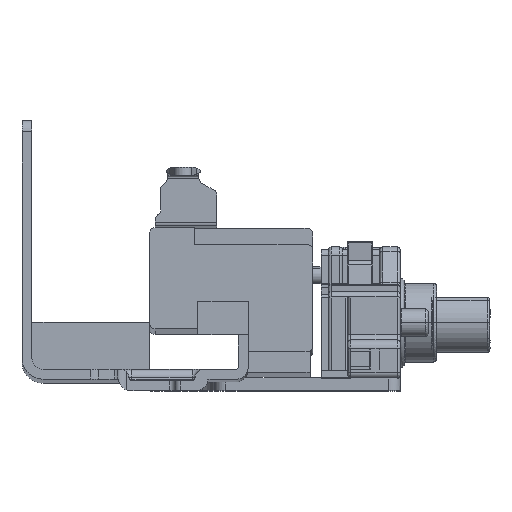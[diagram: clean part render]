
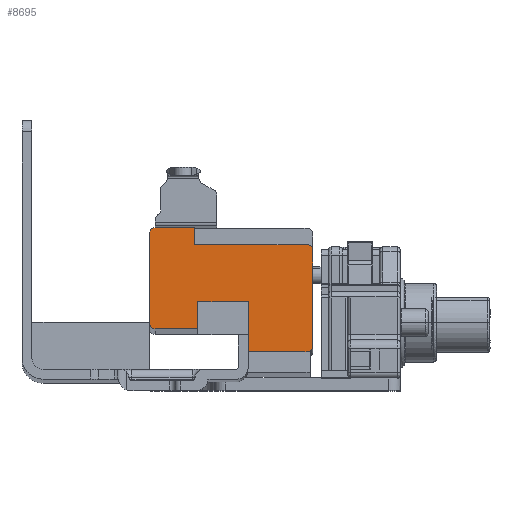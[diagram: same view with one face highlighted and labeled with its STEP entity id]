
A CAD part, top view. The second image highlights one B-rep face of the part: STEP entity #8695.
In plain terms, the highlighted planar face has unit normal (0, 0, 1).
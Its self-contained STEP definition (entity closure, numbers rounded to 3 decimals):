
#59 = VERTEX_POINT ( 'NONE', #14109 ) ;
#310 = DIRECTION ( 'NONE',  ( 0., -1., 0. ) ) ;
#373 = CARTESIAN_POINT ( 'NONE',  ( 3.55, 3., -15.97 ) ) ;
#377 = ORIENTED_EDGE ( 'NONE', *, *, #9993, .F. ) ;
#462 = EDGE_CURVE ( 'NONE', #644, #2111, #7792, .T. ) ;
#644 = VERTEX_POINT ( 'NONE', #7593 ) ;
#816 = VERTEX_POINT ( 'NONE', #10331 ) ;
#1180 = LINE ( 'NONE', #13595, #8117 ) ;
#1352 = EDGE_CURVE ( 'NONE', #14929, #816, #3870, .T. ) ;
#1508 = LINE ( 'NONE', #7400, #8442 ) ;
#1572 = VERTEX_POINT ( 'NONE', #13761 ) ;
#1579 = VERTEX_POINT ( 'NONE', #12158 ) ;
#1606 = EDGE_LOOP ( 'NONE', ( #7918, #6386, #377, #17459, #17821, #2109, #14053, #16435, #14775, #16773, #14745, #2834, #10623, #5740 ) ) ;
#1732 = DIRECTION ( 'NONE',  ( 1., 0., 0. ) ) ;
#2069 = EDGE_CURVE ( 'NONE', #816, #1579, #11627, .T. ) ;
#2109 = ORIENTED_EDGE ( 'NONE', *, *, #15446, .T. ) ;
#2111 = VERTEX_POINT ( 'NONE', #2582 ) ;
#2221 = LINE ( 'NONE', #3825, #16471 ) ;
#2330 = DIRECTION ( 'NONE',  ( 1., 0., 0. ) ) ;
#2563 = DIRECTION ( 'NONE',  ( 0., 1., 0. ) ) ;
#2569 = CARTESIAN_POINT ( 'NONE',  ( 20.15, -9.185, -15.97 ) ) ;
#2582 = CARTESIAN_POINT ( 'NONE',  ( 3.55, 4., -15.97 ) ) ;
#2680 = CARTESIAN_POINT ( 'NONE',  ( 11.15, 0., -15.97 ) ) ;
#2745 = CARTESIAN_POINT ( 'NONE',  ( 3.55, -14., -15.97 ) ) ;
#2834 = ORIENTED_EDGE ( 'NONE', *, *, #11304, .T. ) ;
#2989 = AXIS2_PLACEMENT_3D ( 'NONE', #373, #10047, #1732 ) ;
#3136 = DIRECTION ( 'NONE',  ( 0., 0., 1. ) ) ;
#3436 = VECTOR ( 'NONE', #17198, 1000. ) ;
#3612 = CARTESIAN_POINT ( 'NONE',  ( 10.55, 1., -15.97 ) ) ;
#3731 = VERTEX_POINT ( 'NONE', #14382 ) ;
#3825 = CARTESIAN_POINT ( 'NONE',  ( 31.58, 0., -15.97 ) ) ;
#3870 = LINE ( 'NONE', #17216, #3436 ) ;
#3965 = CARTESIAN_POINT ( 'NONE',  ( 2.55, 0., -15.97 ) ) ;
#4045 = CARTESIAN_POINT ( 'NONE',  ( 30.61, 1., -15.97 ) ) ;
#4740 = AXIS2_PLACEMENT_3D ( 'NONE', #13542, #14905, #12160 ) ;
#4914 = EDGE_CURVE ( 'NONE', #14358, #10050, #6738, .T. ) ;
#5042 = LINE ( 'NONE', #3965, #12838 ) ;
#5315 = EDGE_CURVE ( 'NONE', #14108, #10050, #1508, .T. ) ;
#5740 = ORIENTED_EDGE ( 'NONE', *, *, #7862, .T. ) ;
#5798 = CARTESIAN_POINT ( 'NONE',  ( 20.15, 0., -15.97 ) ) ;
#5960 = LINE ( 'NONE', #6018, #9226 ) ;
#6018 = CARTESIAN_POINT ( 'NONE',  ( 0., -18.1, -15.97 ) ) ;
#6104 = VERTEX_POINT ( 'NONE', #2569 ) ;
#6386 = ORIENTED_EDGE ( 'NONE', *, *, #2069, .T. ) ;
#6738 = CIRCLE ( 'NONE', #4740, 0.97 ) ;
#6994 = CIRCLE ( 'NONE', #15840, 1. ) ;
#7184 = CARTESIAN_POINT ( 'NONE',  ( 3.55, -13., -15.97 ) ) ;
#7400 = CARTESIAN_POINT ( 'NONE',  ( 0.75, 1., -15.97 ) ) ;
#7593 = CARTESIAN_POINT ( 'NONE',  ( 10.55, 4., -15.97 ) ) ;
#7769 = CARTESIAN_POINT ( 'NONE',  ( 31.58, -17.1, -15.97 ) ) ;
#7792 = LINE ( 'NONE', #13225, #14673 ) ;
#7834 = PLANE ( 'NONE',  #13139 ) ;
#7862 = EDGE_CURVE ( 'NONE', #3731, #14929, #8605, .T. ) ;
#7918 = ORIENTED_EDGE ( 'NONE', *, *, #1352, .T. ) ;
#7963 = VECTOR ( 'NONE', #2563, 1000. ) ;
#8117 = VECTOR ( 'NONE', #8140, 1000. ) ;
#8140 = DIRECTION ( 'NONE',  ( -1., 0., 0. ) ) ;
#8442 = VECTOR ( 'NONE', #8780, 1000. ) ;
#8554 = EDGE_CURVE ( 'NONE', #59, #14748, #5960, .T. ) ;
#8573 = DIRECTION ( 'NONE',  ( 1., 0., 0. ) ) ;
#8605 = CIRCLE ( 'NONE', #10854, 1. ) ;
#8695 = ADVANCED_FACE ( 'NONE', ( #15235 ), #7834, .T. ) ;
#8780 = DIRECTION ( 'NONE',  ( 1., 0., 0. ) ) ;
#8927 = DIRECTION ( 'NONE',  ( 0., 1., 0. ) ) ;
#9226 = VECTOR ( 'NONE', #11533, 1000. ) ;
#9588 = VECTOR ( 'NONE', #8927, 1000. ) ;
#9993 = EDGE_CURVE ( 'NONE', #6104, #1579, #1180, .T. ) ;
#10047 = DIRECTION ( 'NONE',  ( 0., 0., 1. ) ) ;
#10050 = VERTEX_POINT ( 'NONE', #4045 ) ;
#10331 = CARTESIAN_POINT ( 'NONE',  ( 11.15, -14., -15.97 ) ) ;
#10611 = DIRECTION ( 'NONE',  ( 0., 0., 1. ) ) ;
#10623 = ORIENTED_EDGE ( 'NONE', *, *, #13086, .T. ) ;
#10854 = AXIS2_PLACEMENT_3D ( 'NONE', #7184, #16775, #8573 ) ;
#11121 = CARTESIAN_POINT ( 'NONE',  ( 31.58, 0.03, -15.97 ) ) ;
#11304 = EDGE_CURVE ( 'NONE', #2111, #1572, #13928, .T. ) ;
#11427 = CARTESIAN_POINT ( 'NONE',  ( 30.58, -17.1, -15.97 ) ) ;
#11533 = DIRECTION ( 'NONE',  ( -1., 0., 0. ) ) ;
#11627 = LINE ( 'NONE', #2680, #7963 ) ;
#12103 = DIRECTION ( 'NONE',  ( 0., -1., 0. ) ) ;
#12158 = CARTESIAN_POINT ( 'NONE',  ( 11.15, -9.185, -15.97 ) ) ;
#12160 = DIRECTION ( 'NONE',  ( 1., 0., 0. ) ) ;
#12260 = DIRECTION ( 'NONE',  ( 0., -1., 0. ) ) ;
#12756 = VECTOR ( 'NONE', #310, 1000. ) ;
#12802 = DIRECTION ( 'NONE',  ( 1., 0., 0. ) ) ;
#12838 = VECTOR ( 'NONE', #12260, 1000. ) ;
#13086 = EDGE_CURVE ( 'NONE', #1572, #3731, #5042, .T. ) ;
#13139 = AXIS2_PLACEMENT_3D ( 'NONE', #17430, #10611, #2330 ) ;
#13215 = LINE ( 'NONE', #17133, #9588 ) ;
#13225 = CARTESIAN_POINT ( 'NONE',  ( 8.35, 4., -15.97 ) ) ;
#13270 = DIRECTION ( 'NONE',  ( -1., 0., 0. ) ) ;
#13368 = CARTESIAN_POINT ( 'NONE',  ( 20.15, -18.1, -15.97 ) ) ;
#13542 = CARTESIAN_POINT ( 'NONE',  ( 30.61, 0.03, -15.97 ) ) ;
#13595 = CARTESIAN_POINT ( 'NONE',  ( 18.38, -9.185, -15.97 ) ) ;
#13637 = EDGE_CURVE ( 'NONE', #14358, #14730, #2221, .T. ) ;
#13761 = CARTESIAN_POINT ( 'NONE',  ( 2.55, 3., -15.97 ) ) ;
#13928 = CIRCLE ( 'NONE', #2989, 1. ) ;
#14053 = ORIENTED_EDGE ( 'NONE', *, *, #13637, .F. ) ;
#14108 = VERTEX_POINT ( 'NONE', #3612 ) ;
#14109 = CARTESIAN_POINT ( 'NONE',  ( 30.58, -18.1, -15.97 ) ) ;
#14358 = VERTEX_POINT ( 'NONE', #11121 ) ;
#14382 = CARTESIAN_POINT ( 'NONE',  ( 2.55, -13., -15.97 ) ) ;
#14615 = EDGE_CURVE ( 'NONE', #14108, #644, #13215, .T. ) ;
#14673 = VECTOR ( 'NONE', #13270, 1000. ) ;
#14730 = VERTEX_POINT ( 'NONE', #7769 ) ;
#14745 = ORIENTED_EDGE ( 'NONE', *, *, #462, .T. ) ;
#14748 = VERTEX_POINT ( 'NONE', #13368 ) ;
#14775 = ORIENTED_EDGE ( 'NONE', *, *, #5315, .F. ) ;
#14905 = DIRECTION ( 'NONE',  ( 0., 0., 1. ) ) ;
#14929 = VERTEX_POINT ( 'NONE', #2745 ) ;
#15235 = FACE_OUTER_BOUND ( 'NONE', #1606, .T. ) ;
#15446 = EDGE_CURVE ( 'NONE', #59, #14730, #6994, .T. ) ;
#15840 = AXIS2_PLACEMENT_3D ( 'NONE', #11427, #3136, #12802 ) ;
#16404 = LINE ( 'NONE', #5798, #12756 ) ;
#16435 = ORIENTED_EDGE ( 'NONE', *, *, #4914, .T. ) ;
#16471 = VECTOR ( 'NONE', #12103, 1000. ) ;
#16773 = ORIENTED_EDGE ( 'NONE', *, *, #14615, .T. ) ;
#16775 = DIRECTION ( 'NONE',  ( 0., 0., 1. ) ) ;
#16852 = EDGE_CURVE ( 'NONE', #6104, #14748, #16404, .T. ) ;
#17133 = CARTESIAN_POINT ( 'NONE',  ( 10.55, 1., -15.97 ) ) ;
#17198 = DIRECTION ( 'NONE',  ( 1., 0., 0. ) ) ;
#17216 = CARTESIAN_POINT ( 'NONE',  ( 0., -14., -15.97 ) ) ;
#17430 = CARTESIAN_POINT ( 'NONE',  ( 0., 0., -15.97 ) ) ;
#17459 = ORIENTED_EDGE ( 'NONE', *, *, #16852, .T. ) ;
#17821 = ORIENTED_EDGE ( 'NONE', *, *, #8554, .F. ) ;
